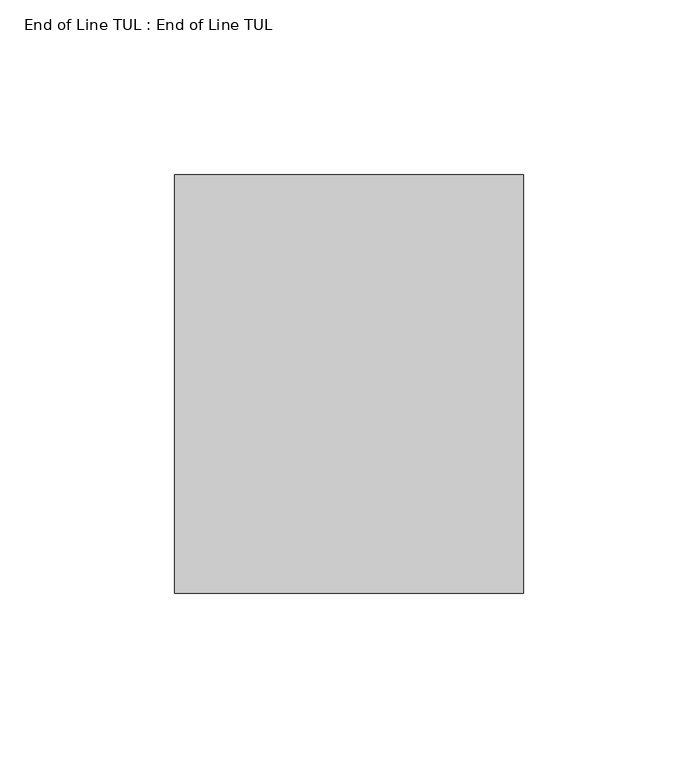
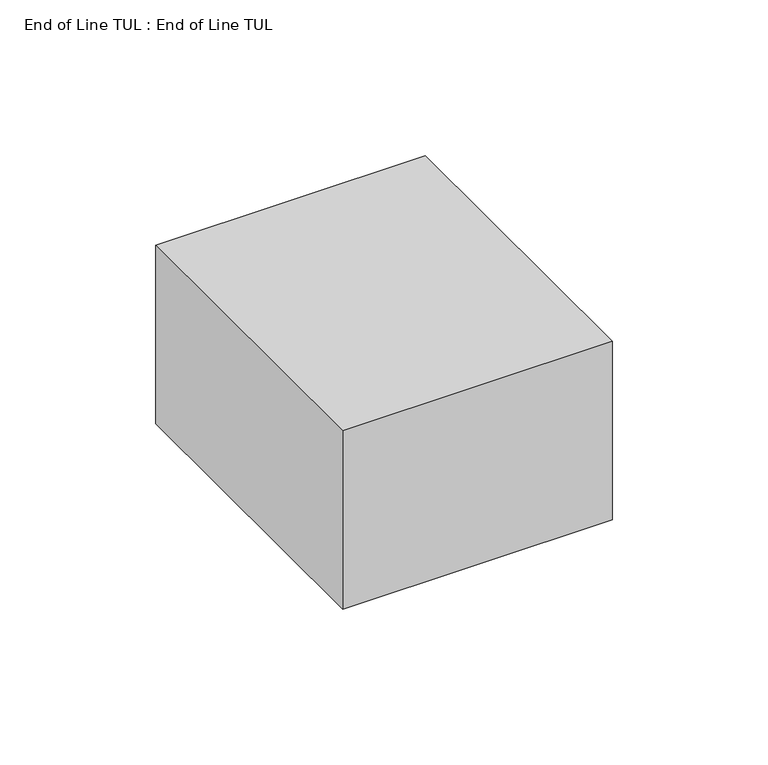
"""IFC4 building model written with IfcOpenShell, lengths in millimetres: alarm geometry, End of Line TUL : End of Line TUL."""

from ifc_helpers import new_model, si_unit, frame, origin, place, context, project, spatial, polyline, outline, extrude, source, transform, mapped, element, save


def end_of_line_tul_end_of_line_tul_aeeab75c(model_context):
    return source(origin(), model_context, "Body", "SweptSolid", [
        extrude(outline(polyline([(-50.6453805, -60.0), (-50.6453805, 60.0), (49.3546195, 60.0), (49.3546195, -60.0), (-50.6453805, -60.0)])), frame((0.0, 0.0, 1430.0), z_axis=(0.0, 0.0, 1.0), x_axis=(1.0, 0.0, 0.0)), (0.0, 0.0, 1.0), 70.0),
    ])


if __name__ == "__main__":
    model = new_model("IFC4")
    model_context = context("Model", 3, world=origin())
    ifc_project = project(units=[si_unit("LENGTHUNIT", "METRE", prefix="MILLI")], contexts=[model_context])
    site = spatial("IfcSite", under=ifc_project)
    building = spatial("IfcBuilding", under=site)
    placement = place(None, origin())
    end_of_line_tul_end_of_line_tul_shape = end_of_line_tul_end_of_line_tul_aeeab75c(model_context)
    element("IfcAlarm", 1, ObjectType="End of Line TUL : End of Line TUL", at=placement, inside=building, context=model_context, shape_type="MappedRepresentation", body=[
        mapped(end_of_line_tul_end_of_line_tul_shape, transform((0.0, 0.0, 0.0), x_axis=(1.0, 0.0, 0.0), y_axis=(0.0, 1.0, 0.0), z_axis=(0.0, 0.0, 1.0))),
    ])
    save(model, "model.ifc")
